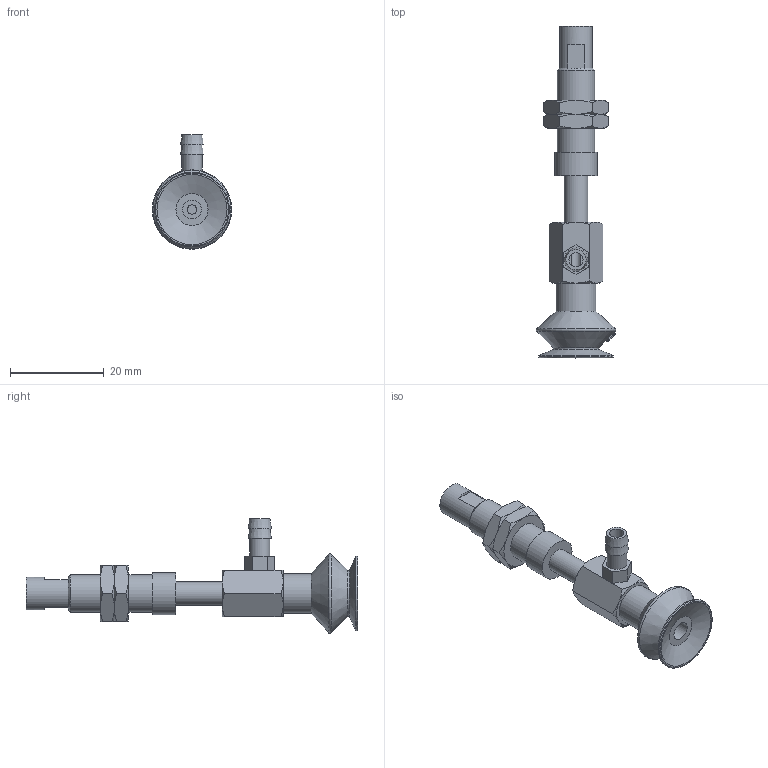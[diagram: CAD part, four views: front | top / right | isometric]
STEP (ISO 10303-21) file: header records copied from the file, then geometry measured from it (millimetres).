
FILE_DESCRIPTION(('STEP AP203'),'1');
FILE_NAME('-T.stp','2025-04-02T00:15:16',(' '),(' '),'Spatial InterOp 3D',' ',' ');
FILE_SCHEMA(('CONFIG_CONTROL_DESIGN'));
Length unit declared in the file: millimetre
Products named in the file (9): BNABPBYS-15A-10-※-T; CONNECTOR-15A-10-PB; Nut-15A-S-PB; NAPBTS-15A-10--F; NAPBTS-15A-10--M; BPBG-15A-※; __27; BPBG-15A; T
Assembly tree (9 placements, depth 3):
  BNABPBYS-15A-10-※-T
    CONNECTOR-15A-10-PB
    Nut-15A-S-PB  x2
    NAPBTS-15A-10--F
    NAPBTS-15A-10--M
    BPBG-15A-※
      __27
      BPBG-15A
    T
Bounding box: 17 x 71 x 24.5 mm (x, y, z)
Volume: 4769.1 mm3; surface area: 5382.7 mm2
Topology: 8 solids, 8 shells, 162 faces, 343 edges, 211 vertices
Faces by surface type: plane 64, cone 58, cylinder 21, torus 11, bspline 8
Full cylindrical faces by diameter (mm): 2 x1, 3 x1, 4 x3, 4.134 x2, 4.3 x1, 5 x4, 6 x2, 7 x1, 7.188 x2, 8 x1, 8.5 x1, 9 x1, 16 x1
Entity records: 5207 total; most frequent: CARTESIAN_POINT 2086, DIRECTION 549, ORIENTED_EDGE 472, AXIS2_PLACEMENT_3D 242, EDGE_CURVE 236, EDGE_LOOP 211, VERTEX_POINT 171, FACE_OUTER_BOUND 170
